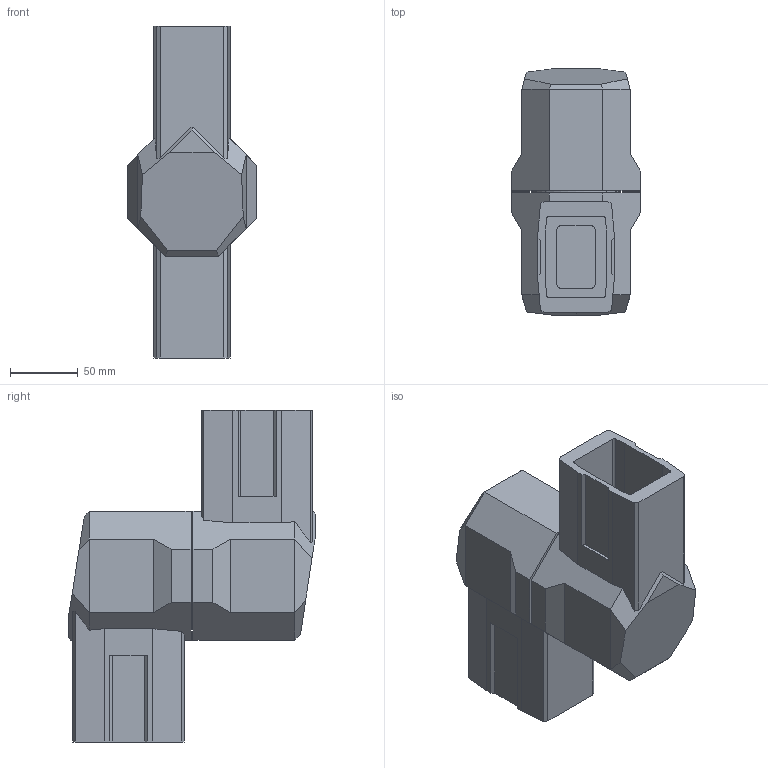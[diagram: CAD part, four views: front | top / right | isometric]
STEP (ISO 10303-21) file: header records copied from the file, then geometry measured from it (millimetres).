
FILE_DESCRIPTION((''),'1');
FILE_NAME('1','2001-04-17T',('jlue'),(''),'PRO/ENGINEER BY PARAMETRIC TECHNOLOGY CORPORATION, 9846','PRO/ENGINEER BY PARAMETRIC TECHNOLOGY CORPORATION, 9846','');
FILE_SCHEMA(('CONFIG_CONTROL_DESIGN'));
Length unit declared in the file: inch
Products named in the file (1): 1
Bounding box: 95 x 182.12 x 245.11 mm (x, y, z)
Surface area: 190193 mm2 (no closed solid volume)
Topology: 0 solids, 0 shells, 148 faces, 849 edges, 850 vertices
Faces by surface type: plane 130, cylinder 18
Entity records: 4227 total; most frequent: COMPOSITE_CURVE_SEGMENT 848, DIRECTION 805, CARTESIAN_POINT 589, TRIMMED_CURVE 441, VECTOR 373, LINE 373, AXIS2_PLACEMENT_3D 216, CURVE_BOUNDED_SURFACE 148
